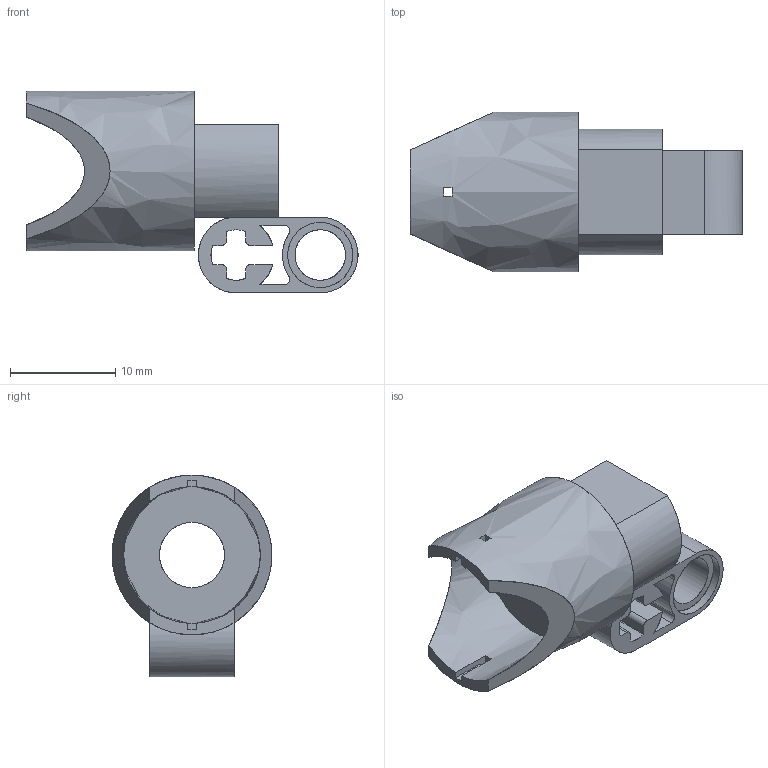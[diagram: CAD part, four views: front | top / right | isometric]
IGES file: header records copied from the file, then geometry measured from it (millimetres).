
Start section: C
Global section: file name: Gray_4638507_a)_AVV.iges; native system: By Siemens PLM Incorporated; preprocessor: XPlus GENERIC/IGES 26.1.183; author: Author; organization: Title; date: 20250722.000106; units: millimetre
Bounding box: 31.6 x 15.2 x 19.2 mm (x, y, z)
Surface area: 2595.8 mm2 (no closed solid volume)
Topology: 0 solids, 0 shells, 64 faces, 388 edges, 388 vertices
Faces by surface type: bspline 64
